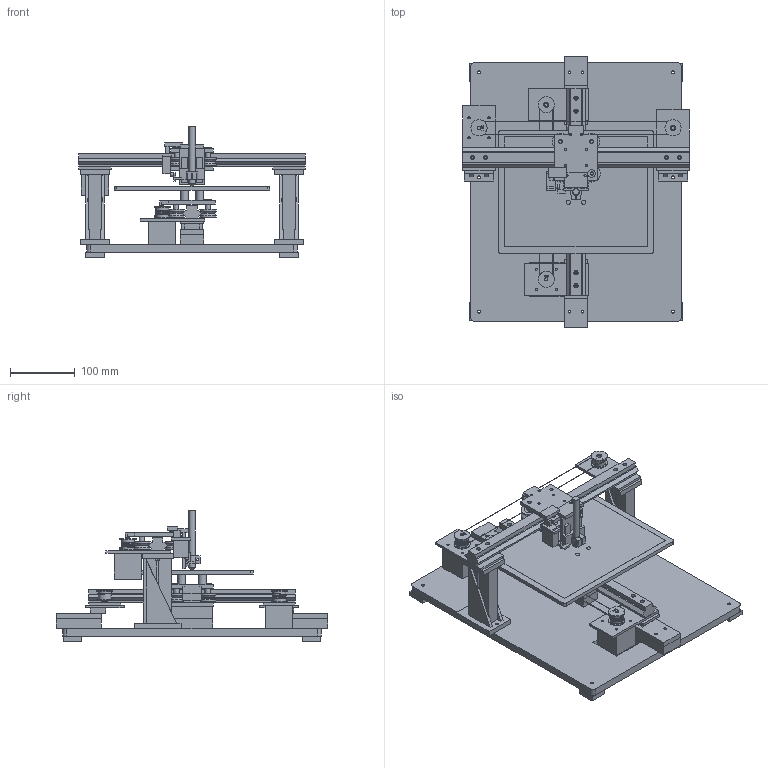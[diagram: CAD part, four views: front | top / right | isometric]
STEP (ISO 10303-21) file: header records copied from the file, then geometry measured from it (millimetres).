
FILE_DESCRIPTION(('Open CASCADE Model'),'2;1');
FILE_NAME('Open CASCADE Shape Model','2026-10-21T12:05:02',('Author'),( 'Open CASCADE'),'Open CASCADE STEP processor 7.9','Open CASCADE 7.9' ,'Unknown');
FILE_SCHEMA(('AUTOMOTIVE_DESIGN { 1 0 10303 214 1 1 1 1 }'));
Length unit declared in the file: millimetre
Products named in the file (105): Rwanda_cord_plotter_CNC_option; x_tower_019; x_tower_020; y_end_foot_021; y_end_foot_022; y_center_foot_023; x_rail_left_024; x_rail_right_025; rail_joiner_026; motor_bracket_027; idler_bracket_028; carriage_029; v_wheel_030; axle_spacer_031; bearing_inner_spacer_032; eccentric_bush_033; 625_bearing_034; 625_bearing_035; v_wheel_036; axle_spacer_037; bearing_inner_spacer_038; 625_bearing_039; 625_bearing_040; v_wheel_041; axle_spacer_042; bearing_inner_spacer_043; eccentric_bush_044; 625_bearing_045; 625_bearing_046; v_wheel_047; axle_spacer_048; bearing_inner_spacer_049; 625_bearing_050; 625_bearing_051; nema17_motor_052; motor_capstan_053; cord_idler_054; idler_inner_support_055; 625_idler_bearing_056; 625_idler_bearing_057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
Assembly tree (104 placements, depth 2):
  Rwanda_cord_plotter_CNC_option
    x_tower_019
    x_tower_020
    y_end_foot_021
    y_end_foot_022
    y_center_foot_023
    x_rail_left_024
    x_rail_right_025
    rail_joiner_026
    motor_bracket_027
    idler_bracket_028
    carriage_029
    v_wheel_030
    axle_spacer_031
    bearing_inner_spacer_032
    eccentric_bush_033
    625_bearing_034
    625_bearing_035
    v_wheel_036
    axle_spacer_037
    bearing_inner_spacer_038
    625_bearing_039
    625_bearing_040
    v_wheel_041
    axle_spacer_042
    bearing_inner_spacer_043
    eccentric_bush_044
    625_bearing_045
    625_bearing_046
    v_wheel_047
    axle_spacer_048
    bearing_inner_spacer_049
    625_bearing_050
    625_bearing_051
    nema17_motor_052
    motor_capstan_053
    cord_idler_054
    idler_inner_support_055
    625_idler_bearing_056
    625_idler_bearing_057
    bearing_inner_spacer_058
    cord_incoming_059
    cord_winding_060
    cord_outgoing_061
    cord_return_turn_062
    cord_to_anchor_063
    y_rail_left_064
    y_rail_right_065
    rail_joiner_066
    motor_bracket_067
    idler_bracket_068
    carriage_069
    v_wheel_070
    axle_spacer_071
    bearing_inner_spacer_072
    eccentric_bush_073
    625_bearing_074
    625_bearing_075
    v_wheel_076
    axle_spacer_077
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Bounding box: 350 x 420 x 202 mm (x, y, z)
Volume: 3030190.8 mm3; surface area: 827413.6 mm2
Topology: 104 solids, 104 shells, 1088 faces, 2367 edges, 1559 vertices
Faces by surface type: plane 703, cylinder 364, cone 17, bspline 4
Full cylindrical faces by diameter (mm): 0.5 x6, 3.4 x94, 4.4 x34, 5 x23, 5.2 x2, 5.3 x30, 6.4 x20, 7 x4, 7.2 x4, 7.5 x12, 7.8 x14, 8 x14, 9.8 x1, 10 x2, 12 x10, 16 x20, 16.1 x20, 20 x4, 22 x2, 22.5 x2, 25 x8, 26 x16
Entity records: 69256 total; most frequent: CARTESIAN_POINT 16806, DIRECTION 9722, LINE 5547, VECTOR 5547, ORIENTED_EDGE 4734, PCURVE 4734, DEFINITIONAL_REPRESENTATION 4734, EDGE_CURVE 2367
